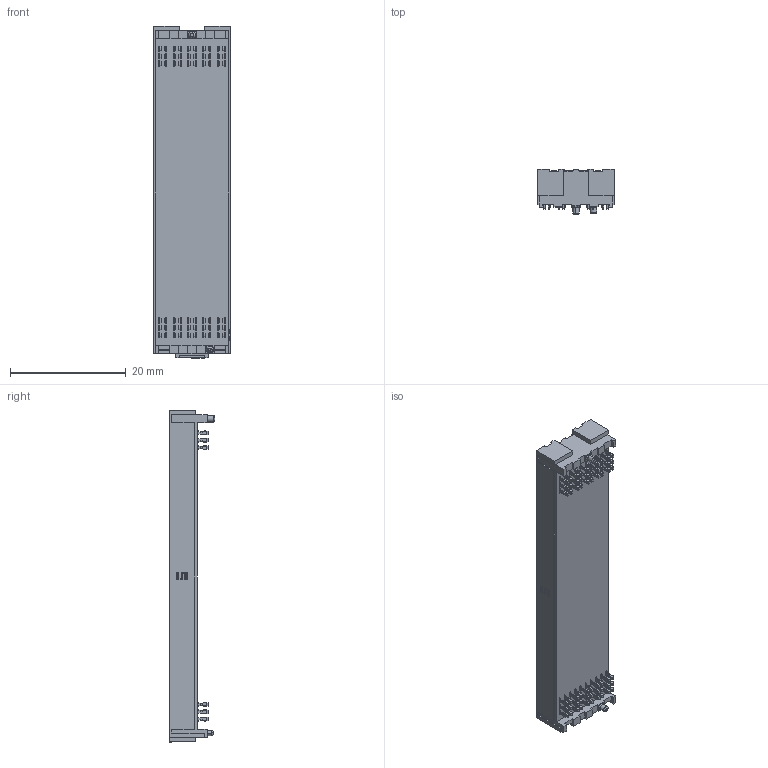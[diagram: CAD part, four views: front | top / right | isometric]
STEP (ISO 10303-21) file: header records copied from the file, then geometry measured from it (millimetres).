
FILE_DESCRIPTION (( 'STEP AP203' ), '1' );
FILE_NAME ('ASP-134486-01.step', '2017-10-18T15:49:58', ( '' ), ( '' ), 'SwSTEP 2.0', 'SolidWorks 2016', '' );
FILE_SCHEMA (( 'CONFIG_CONTROL_DESIGN' ));
Length unit declared in the file: millimetre
Products named in the file (1): ASP-134486-01
Bounding box: 13.24 x 7.82 x 57.45 mm (x, y, z)
Volume: 2259.1 mm3; surface area: 4195 mm2
Topology: 1 solids, 1 shells, 5405 faces, 14965 edges, 9442 vertices
Faces by surface type: plane 2957, cylinder 1616, bspline 730, torus 72, cone 24, sphere 6
Entity records: 180983 total; most frequent: CARTESIAN_POINT 50828, ORIENTED_EDGE 29678, DIRECTION 23587, EDGE_CURVE 14839, VERTEX_POINT 9442, LINE 9051, VECTOR 9051, AXIS2_PLACEMENT_3D 7268
